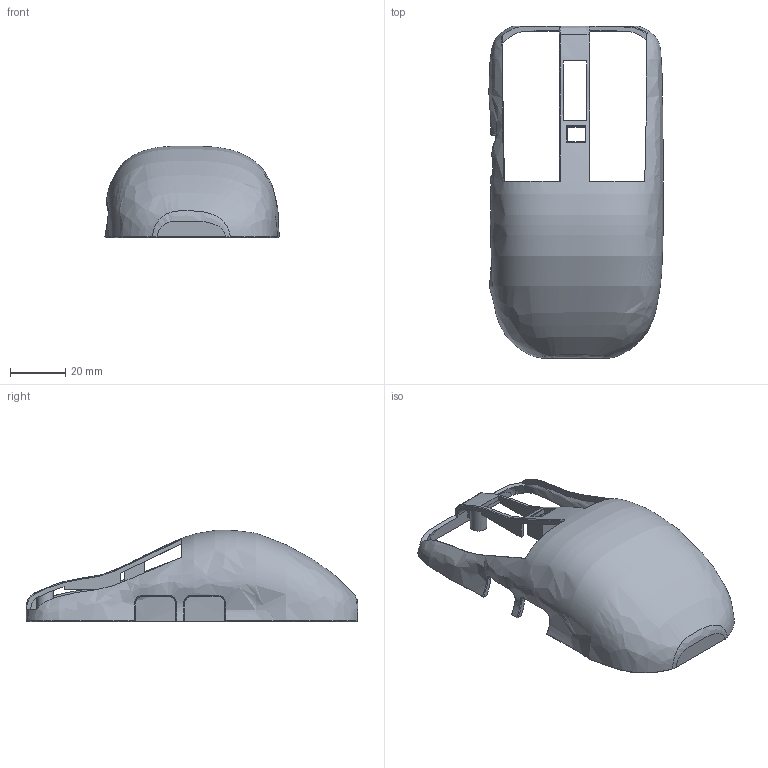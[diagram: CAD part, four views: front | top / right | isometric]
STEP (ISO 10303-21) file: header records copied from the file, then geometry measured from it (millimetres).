
FILE_DESCRIPTION(('Open CASCADE Model'),'2;1');
FILE_NAME('Open CASCADE Shape Model','2026-11-26T01:43:10',('Author'),( 'Open CASCADE'),'Open CASCADE STEP processor 7.9','build123d', 'Unknown');
FILE_SCHEMA(('AUTOMOTIVE_DESIGN { 1 0 10303 214 1 1 1 1 }'));
Products named in the file (1): SOLID
Bounding box: 63.02 x 120 x 33.08 mm (x, y, z)
Volume: 19573.1 mm3; surface area: 21713 mm2
Topology: 1 solids, 1 shells, 173 faces, 446 edges, 285 vertices
Faces by surface type: plane 113, bspline 44, cylinder 16
Full cylindrical faces by diameter (mm): 1.5 x4, 1.6 x2, 3.2 x3, 6 x3
Entity records: 245820 total; most frequent: CARTESIAN_POINT 238234, DIRECTION 909, ORIENTED_EDGE 892, PCURVE 892, DEFINITIONAL_REPRESENTATION 892, B_SPLINE_CURVE_WITH_KNOTS 711, LINE 583, VECTOR 583
